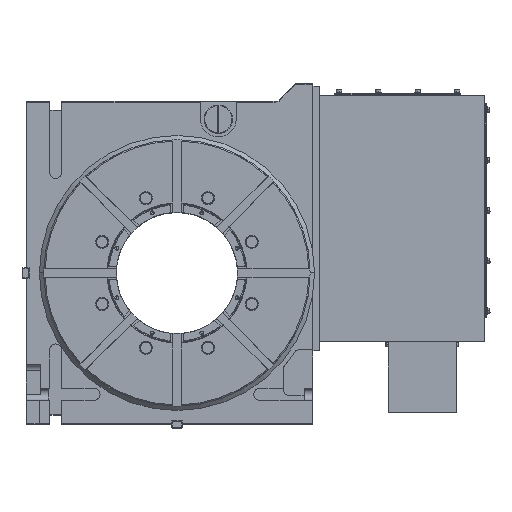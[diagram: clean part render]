
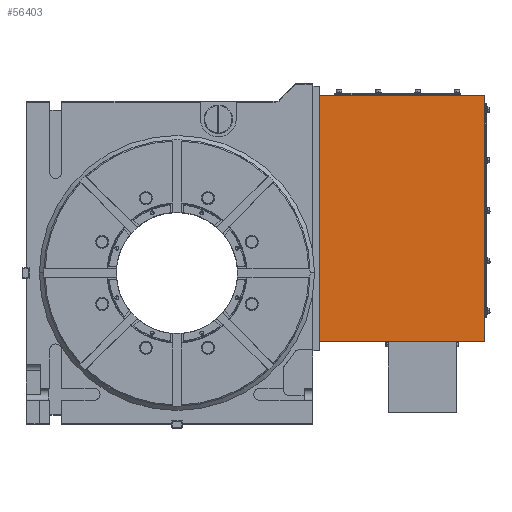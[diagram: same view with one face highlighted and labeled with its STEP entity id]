
A CAD part, top view. The second image highlights one B-rep face of the part: STEP entity #56403.
In plain terms, the highlighted planar face has unit normal (0, 0, 1).
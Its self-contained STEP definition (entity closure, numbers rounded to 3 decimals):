
#1541 = LINE ( 'NONE', #5673, #47378 ) ;
#5673 = CARTESIAN_POINT ( 'NONE',  ( 520., 301., -20. ) ) ;
#8363 = VERTEX_POINT ( 'NONE', #56073 ) ;
#9018 = EDGE_CURVE ( 'NONE', #32881, #8363, #46209, .T. ) ;
#10394 = PLANE ( 'NONE',  #19595 ) ;
#11945 = VECTOR ( 'NONE', #22919, 1000. ) ;
#14341 = CARTESIAN_POINT ( 'NONE',  ( 520., -116., -20. ) ) ;
#15061 = CARTESIAN_POINT ( 'NONE',  ( 241., 301., -20. ) ) ;
#15125 = CARTESIAN_POINT ( 'NONE',  ( 520., 301., -20. ) ) ;
#15715 = DIRECTION ( 'NONE',  ( 0., 1., 0. ) ) ;
#15993 = EDGE_CURVE ( 'NONE', #47601, #32881, #1541, .T. ) ;
#17932 = CARTESIAN_POINT ( 'NONE',  ( 520., -116., -20. ) ) ;
#18183 = VERTEX_POINT ( 'NONE', #39036 ) ;
#18624 = EDGE_LOOP ( 'NONE', ( #47657, #24634, #21068, #54757 ) ) ;
#19595 = AXIS2_PLACEMENT_3D ( 'NONE', #15125, #41920, #15715 ) ;
#21068 = ORIENTED_EDGE ( 'NONE', *, *, #9018, .F. ) ;
#22919 = DIRECTION ( 'NONE',  ( -1., 0., 0. ) ) ;
#24634 = ORIENTED_EDGE ( 'NONE', *, *, #27852, .T. ) ;
#27852 = EDGE_CURVE ( 'NONE', #18183, #8363, #51295, .T. ) ;
#28288 = DIRECTION ( 'NONE',  ( 0., -1., 0. ) ) ;
#32881 = VERTEX_POINT ( 'NONE', #14341 ) ;
#34244 = DIRECTION ( 'NONE',  ( -1., 0., 0. ) ) ;
#35743 = VECTOR ( 'NONE', #34244, 1000. ) ;
#37477 = DIRECTION ( 'NONE',  ( 0., -1., 0. ) ) ;
#38404 = CARTESIAN_POINT ( 'NONE',  ( 520., 301., -20. ) ) ;
#39036 = CARTESIAN_POINT ( 'NONE',  ( 241., 301., -20. ) ) ;
#41920 = DIRECTION ( 'NONE',  ( 0., 0., -1. ) ) ;
#46209 = LINE ( 'NONE', #17932, #11945 ) ;
#47378 = VECTOR ( 'NONE', #37477, 1000. ) ;
#47601 = VERTEX_POINT ( 'NONE', #54716 ) ;
#47657 = ORIENTED_EDGE ( 'NONE', *, *, #48403, .T. ) ;
#48403 = EDGE_CURVE ( 'NONE', #47601, #18183, #56095, .T. ) ;
#48489 = VECTOR ( 'NONE', #28288, 1000. ) ;
#51295 = LINE ( 'NONE', #15061, #48489 ) ;
#54716 = CARTESIAN_POINT ( 'NONE',  ( 520., 301., -20. ) ) ;
#54757 = ORIENTED_EDGE ( 'NONE', *, *, #15993, .F. ) ;
#55497 = FACE_OUTER_BOUND ( 'NONE', #18624, .T. ) ;
#56073 = CARTESIAN_POINT ( 'NONE',  ( 241., -116., -20. ) ) ;
#56095 = LINE ( 'NONE', #38404, #35743 ) ;
#56403 = ADVANCED_FACE ( 'NONE', ( #55497 ), #10394, .F. ) ;
